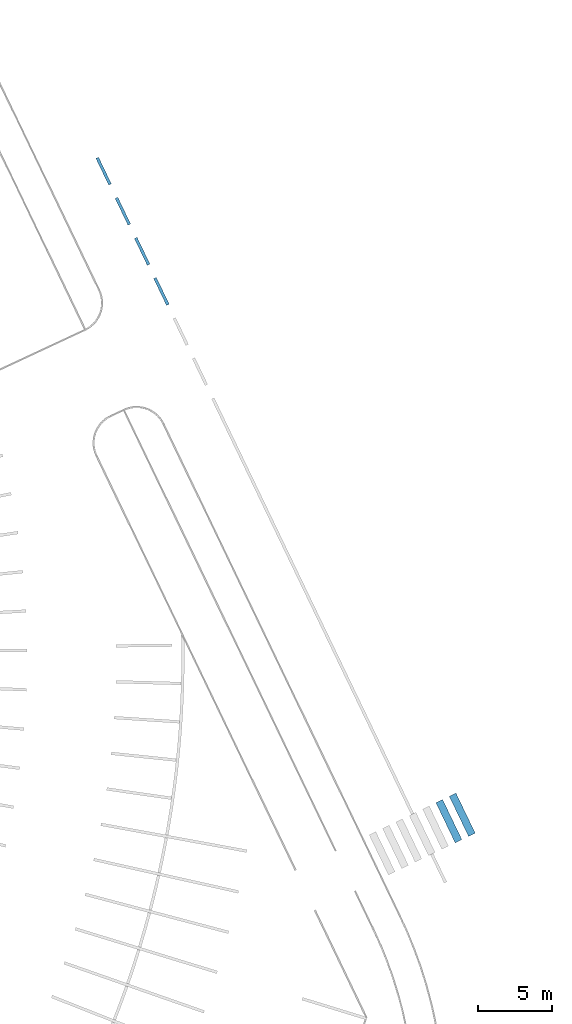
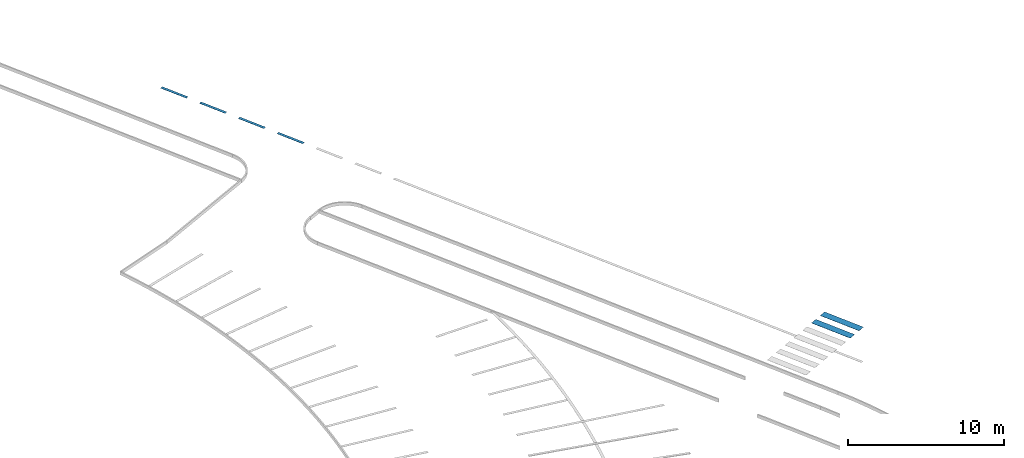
# One storey, part 92 of 157: 6 walls.
"""IFC2X3 building model written with IfcOpenShell, lengths in millimetres."""

import ifcopenshell
import ifcopenshell.guid

model = None  # the IFC model being written
_history = None  # IfcOwnerHistory: only IFC2X3 demands one
_inside = {}  # id of a spatial element -> (the spatial element, [elements in it])
_under = {}  # id of a project, library or spatial element -> (it, [spatial elements below it])
_declared = {}  # id of a project -> (the project, [libraries it declares])
_typed = {}  # id of a type object -> (the type object, [elements of that type])
_made_of = {}  # id of a material, layer set ... -> (it, [elements and type objects made of it])


def new_model(schema):
    """Start an empty IFC model of exactly this schema.

    Asked for "IFC4X3", IfcOpenShell would pick the latest addendum, in which some entities
    have other attributes; the version numbers below select the first issue.
    IFC2X3 requires an IfcOwnerHistory on every rooted entity: one is made here for all.
    """
    global model, _history
    if schema == "IFC4X3":
        model = ifcopenshell.file(schema_version=(4, 3, 0, 0))
    else:
        model = ifcopenshell.file(schema=schema)
    _inside.clear()
    _under.clear()
    _declared.clear()
    _typed.clear()
    _made_of.clear()
    _history = None
    if model.schema == "IFC2X3":
        org = make("IfcOrganization", Name="unknown")
        user = make(
            "IfcPersonAndOrganization",
            ThePerson=make("IfcPerson", FamilyName="unknown"),
            TheOrganization=org,
        )
        app = make(
            "IfcApplication",
            ApplicationDeveloper=org,
            Version="unknown",
            ApplicationFullName="unknown",
            ApplicationIdentifier="unknown",
        )
        _history = make(
            "IfcOwnerHistory",
            OwningUser=user,
            OwningApplication=app,
            ChangeAction="ADDED",
            CreationDate=0,
        )
    return model


def make(cls, **values):
    """One entity of the class cls with the attributes given. An attribute that is None is left unset."""
    return model.create_entity(
        cls, **{name: value for name, value in values.items() if value is not None}
    )


def entity(cls, *values):
    """Any entity or typed value of the class cls, its attributes in the order of the schema. None: left unset."""
    e = model.create_entity(cls)
    for i, value in enumerate(values):
        if value is not None:
            e[i] = value
    return e


def rooted(cls, **values):
    """An entity with a GlobalId (a new one), such as an element, a storey or a relation."""
    return make(cls, GlobalId=ifcopenshell.guid.new(), OwnerHistory=_history, **values)


def si_unit(unit_type, name, prefix=None):
    """IfcSIUnit, for example si_unit("LENGTHUNIT", "METRE", prefix="MILLI")."""
    return make("IfcSIUnit", UnitType=unit_type, Prefix=prefix, Name=name)


def converted_unit(unit_type, name, factor, base, dimensions=None, offset=None):
    """IfcConversionBasedUnit, such as the inch: factor (a typed value) times the base unit."""
    return make(
        "IfcConversionBasedUnit"
        if offset is None
        else "IfcConversionBasedUnitWithOffset",
        ConversionOffset=offset,
        Dimensions=None
        if dimensions is None
        else entity("IfcDimensionalExponents", *dimensions),
        UnitType=unit_type,
        Name=name,
        ConversionFactor=make(
            "IfcMeasureWithUnit", ValueComponent=factor, UnitComponent=base
        ),
    )


def derived_unit(unit_type, elements):
    """IfcDerivedUnit: a product of units, each with its exponent."""
    return make(
        "IfcDerivedUnit",
        Elements=[
            make("IfcDerivedUnitElement", Unit=unit, Exponent=power)
            for unit, power in elements
        ],
        UnitType=unit_type,
    )


def assignment(units):
    """IfcUnitAssignment: the units of a project."""
    return None if units is None else make("IfcUnitAssignment", Units=units)


def point(xyz):
    """IfcCartesianPoint."""
    return None if xyz is None else make("IfcCartesianPoint", Coordinates=xyz)


def direction(xyz):
    """IfcDirection."""
    return None if xyz is None else make("IfcDirection", DirectionRatios=xyz)


def frame(location, z_axis=None, x_axis=None):
    """IfcAxis2Placement3D, a coordinate frame: its origin and axes. An axis left out is left unset."""
    return make(
        "IfcAxis2Placement3D",
        Location=point(location),
        Axis=direction(z_axis),
        RefDirection=direction(x_axis),
    )


def frame_2d(location, x_axis=None):
    """IfcAxis2Placement2D, a coordinate frame in the plane: its origin and x axis."""
    return make(
        "IfcAxis2Placement2D", Location=point(location), RefDirection=direction(x_axis)
    )


def origin():
    """The frame at (0, 0, 0) with its axes left unset."""
    return frame((0.0, 0.0, 0.0))


def place(relative_to, where):
    """IfcLocalPlacement: puts the frame where relative to a parent placement (None: the world)."""
    return make(
        "IfcLocalPlacement", PlacementRelTo=relative_to, RelativePlacement=where
    )


def context(
    kind, dimensions, precision=None, world=None, true_north=None, identifier=None
):
    """IfcGeometricRepresentationContext, for example the 3D "Model" context."""
    return make(
        "IfcGeometricRepresentationContext",
        ContextIdentifier=identifier,
        ContextType=kind,
        CoordinateSpaceDimension=dimensions,
        Precision=precision,
        WorldCoordinateSystem=world,
        TrueNorth=true_north,
    )


def subcontext(parent, identifier, kind, view, scale=None):
    """IfcGeometricRepresentationSubContext, for example "Body" below "Model"."""
    return make(
        "IfcGeometricRepresentationSubContext",
        ContextIdentifier=identifier,
        ContextType=kind,
        ParentContext=parent,
        TargetScale=scale,
        TargetView=view,
    )


def project(units=None, contexts=None):
    """IfcProject with its units and contexts."""
    return rooted(
        "IfcProject",
        Name="project",
        RepresentationContexts=contexts,
        UnitsInContext=assignment(units),
    )


def spatial(cls, under=None, at=None, **own):
    """A site, building, storey or space (cls), placed at a placement, below another one or the project."""
    s = rooted(cls, ObjectPlacement=at, **own)
    if under is not None:
        _under.setdefault(under.id(), (under, []))[1].append(s)
    return s


def profile(cls, at=None, kind="AREA", **sizes):
    """A parametric profile (cls). Its sizes go by their IFC names, for example OverallWidth=200.0."""
    return make(cls, ProfileType=kind, Position=at, **sizes)


def rectangle(**sizes):
    """IfcRectangleProfileDef."""
    return profile("IfcRectangleProfileDef", **sizes)


def extrude(swept, where, along, depth):
    """IfcExtrudedAreaSolid: the profile swept, set in the frame where, extruded along a direction by depth."""
    return make(
        "IfcExtrudedAreaSolid",
        SweptArea=swept,
        Position=where,
        ExtrudedDirection=direction(along),
        Depth=depth,
    )


def shape(context_of_items, identifier, shape_type, items):
    """IfcShapeRepresentation: the items that make up one representation, for example the "Body"."""
    return make(
        "IfcShapeRepresentation",
        ContextOfItems=context_of_items,
        RepresentationIdentifier=identifier,
        RepresentationType=shape_type,
        Items=items,
    )


def material(Name=None, Category=None):
    """IfcMaterial."""
    return make("IfcMaterial", Name=Name, Category=Category)


def made_of(thing, what):
    """Note that an element or type object is made of a material, layer set ...; save() writes the relation."""
    if what is not None:
        _made_of.setdefault(what.id(), (what, []))[1].append(thing)
    return thing


def type_object(cls, material=None, **own):
    """A type object (cls), such as IfcWallType, which elements share."""
    return made_of(rooted(cls, **own), material)


def element(
    cls,
    number,
    at=None,
    inside=None,
    cuts=None,
    type_object=None,
    material=None,
    context=None,
    identifier="Body",
    shape_type=None,
    held_by="IfcProductDefinitionShape",
    body=None,
    shapes=None,
    **own,
):
    """One element of the class cls, such as IfcWall. Its Tag is "e" and its number.

    at: its placement. inside: the storey or other place that contains it. cuts: it is an
    opening in that element (IfcRelVoidsElement). A single representation is given by context,
    identifier, shape_type and body (its items); several are given by shapes. held_by: the class
    of the entity that holds the representations. save() writes the other relations.
    """
    e = rooted(cls, Tag="e%d" % number, ObjectPlacement=at, **own)
    if body is not None:
        shapes = [shape(context, identifier, shape_type, body)]
    if shapes is not None:
        e.Representation = make(held_by, Representations=shapes)
    if inside is not None:
        _inside.setdefault(inside.id(), (inside, []))[1].append(e)
    if cuts is not None:
        rooted(
            "IfcRelVoidsElement", RelatingBuildingElement=cuts, RelatedOpeningElement=e
        )
    if type_object is not None:
        _typed.setdefault(type_object.id(), (type_object, []))[1].append(e)
    return made_of(e, material)


def aggregate(whole, parts):
    """IfcRelAggregates: a whole, such as a stair, and the parts it consists of."""
    return rooted("IfcRelAggregates", RelatingObject=whole, RelatedObjects=parts)


def save(model, path):
    """Write the relations noted so far, then the file.

    IfcRelAggregates (storeys below a building ...), IfcRelContainedInSpatialStructure (elements
    in a storey), IfcRelDefinesByType, IfcRelAssociatesMaterial and IfcRelDeclares: one each for
    every whole, place, type object, material and project.
    """
    for whole, parts in _under.values():
        aggregate(whole, parts)
    for where, things in _inside.values():
        rooted(
            "IfcRelContainedInSpatialStructure",
            RelatedElements=things,
            RelatingStructure=where,
        )
    for kind, things in _typed.values():
        rooted("IfcRelDefinesByType", RelatedObjects=things, RelatingType=kind)
    for what, things in _made_of.values():
        rooted("IfcRelAssociatesMaterial", RelatedObjects=things, RelatingMaterial=what)
    for by, libraries in _declared.values():
        rooted("IfcRelDeclares", RelatingContext=by, RelatedDefinitions=libraries)
    model.write(path)


model = new_model("IFC2X3")

# Units and contexts
model_context = context("Model", 3, precision=0.01, world=origin(), true_north=direction((6.123031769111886e-17, 1.0)))
body_context = subcontext(model_context, "Body", "Model", "MODEL_VIEW")
ifc_project = project(units=[si_unit("LENGTHUNIT", "METRE", prefix="MILLI"), si_unit("AREAUNIT", "SQUARE_METRE"), si_unit("VOLUMEUNIT", "CUBIC_METRE"), converted_unit("PLANEANGLEUNIT", "DEGREE", entity("IfcRatioMeasure", 0.017453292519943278), si_unit("PLANEANGLEUNIT", "RADIAN"), dimensions=[0, 0, 0, 0, 0, 0, 0]), si_unit("MASSUNIT", "GRAM", prefix="KILO"), derived_unit("MASSDENSITYUNIT", [(si_unit("MASSUNIT", "GRAM", prefix="KILO"), 1), (si_unit("LENGTHUNIT", "METRE"), -3)]), derived_unit("MOMENTOFINERTIAUNIT", [(si_unit("LENGTHUNIT", "METRE"), 4)]), si_unit("TIMEUNIT", "SECOND"), si_unit("FREQUENCYUNIT", "HERTZ"), si_unit("THERMODYNAMICTEMPERATUREUNIT", "DEGREE_CELSIUS"), derived_unit("THERMALTRANSMITTANCEUNIT", [(si_unit("MASSUNIT", "GRAM", prefix="KILO"), 1), (si_unit("THERMODYNAMICTEMPERATUREUNIT", "KELVIN"), -1), (si_unit("TIMEUNIT", "SECOND"), -3)]), derived_unit("THERMALCONDUCTANCEUNIT", [(si_unit("MASSUNIT", "GRAM", prefix="KILO"), 1), (si_unit("LENGTHUNIT", "METRE"), 1), (si_unit("THERMODYNAMICTEMPERATUREUNIT", "KELVIN"), -1), (si_unit("TIMEUNIT", "SECOND"), -3)]), derived_unit("VOLUMETRICFLOWRATEUNIT", [(si_unit("LENGTHUNIT", "METRE"), 3), (si_unit("TIMEUNIT", "SECOND"), -1)]), derived_unit("MASSFLOWRATEUNIT", [(si_unit("MASSUNIT", "GRAM", prefix="KILO"), 1), (si_unit("TIMEUNIT", "SECOND"), -1)]), derived_unit("ROTATIONALFREQUENCYUNIT", [(si_unit("TIMEUNIT", "SECOND"), -1)]), si_unit("ELECTRICCURRENTUNIT", "AMPERE"), si_unit("ELECTRICVOLTAGEUNIT", "VOLT"), si_unit("POWERUNIT", "WATT"), converted_unit("FORCEUNIT", "KIP", entity("IfcRatioMeasure", 2.088543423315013e-05), si_unit("FORCEUNIT", "NEWTON"), dimensions=[1, 1, -2, 0, 0, 0, 0]), si_unit("ILLUMINANCEUNIT", "LUX"), si_unit("LUMINOUSFLUXUNIT", "LUMEN"), si_unit("LUMINOUSINTENSITYUNIT", "CANDELA"), derived_unit("USERDEFINED", [(si_unit("MASSUNIT", "GRAM", prefix="KILO"), -1), (si_unit("LENGTHUNIT", "METRE"), -2), (si_unit("TIMEUNIT", "SECOND"), 3), (si_unit("LUMINOUSFLUXUNIT", "LUMEN"), 1)]), derived_unit("USERDEFINED", [(si_unit("MASSUNIT", "GRAM", prefix="KILO"), 1), (si_unit("LENGTHUNIT", "METRE"), 3), (si_unit("TIMEUNIT", "SECOND"), -3), (si_unit("ELECTRICCURRENTUNIT", "AMPERE"), -2)]), derived_unit("USERDEFINED", [(si_unit("LENGTHUNIT", "METRE"), 2), (si_unit("TIMEUNIT", "SECOND"), -2)]), derived_unit("SOUNDPOWERUNIT", [(si_unit("MASSUNIT", "GRAM", prefix="KILO"), 1), (si_unit("LENGTHUNIT", "METRE"), 2), (si_unit("TIMEUNIT", "SECOND"), -3)]), derived_unit("SOUNDPRESSUREUNIT", [(si_unit("MASSUNIT", "GRAM", prefix="KILO"), 1), (si_unit("LENGTHUNIT", "METRE"), -1), (si_unit("TIMEUNIT", "SECOND"), -2)]), derived_unit("LINEARVELOCITYUNIT", [(si_unit("LENGTHUNIT", "METRE"), 1), (si_unit("TIMEUNIT", "SECOND"), -1)]), si_unit("PRESSUREUNIT", "PASCAL"), derived_unit("USERDEFINED", [(si_unit("LENGTHUNIT", "METRE"), -2), (si_unit("MASSUNIT", "GRAM", prefix="KILO"), 1), (si_unit("TIMEUNIT", "SECOND"), -2)]), derived_unit("LINEARFORCEUNIT", [(si_unit("MASSUNIT", "GRAM", prefix="KILO"), 1), (si_unit("LENGTHUNIT", "METRE"), 1), (si_unit("TIMEUNIT", "SECOND"), -2), (si_unit("LENGTHUNIT", "METRE"), -1)]), derived_unit("PLANARFORCEUNIT", [(si_unit("MASSUNIT", "GRAM", prefix="KILO"), 1), (si_unit("LENGTHUNIT", "METRE"), 1), (si_unit("TIMEUNIT", "SECOND"), -2), (si_unit("LENGTHUNIT", "METRE"), -2)]), derived_unit("SPECIFICHEATCAPACITYUNIT", [(si_unit("LENGTHUNIT", "METRE"), 2), (si_unit("TIMEUNIT", "SECOND"), -2), (si_unit("THERMODYNAMICTEMPERATUREUNIT", "KELVIN"), -1)]), derived_unit("VAPORPERMEABILITYUNIT", [(si_unit("TIMEUNIT", "SECOND"), 1), (si_unit("LENGTHUNIT", "METRE"), -1)]), derived_unit("DYNAMICVISCOSITYUNIT", [(si_unit("MASSUNIT", "GRAM", prefix="KILO"), 1), (si_unit("LENGTHUNIT", "METRE"), -1), (si_unit("TIMEUNIT", "SECOND"), -1)]), derived_unit("THERMALEXPANSIONCOEFFICIENTUNIT", [(si_unit("THERMODYNAMICTEMPERATUREUNIT", "KELVIN"), -1)])], contexts=[model_context])

# Site, building, storey
site_placement = place(None, frame((0.0, 0.0, 0.0), z_axis=(0.0, 0.0, 1.0), x_axis=(0.8191520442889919, 0.5735764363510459, 0.0)))
site = spatial("IfcSite", under=ifc_project, at=site_placement, Name="Default", CompositionType="ELEMENT")
building_placement = place(site_placement, origin())
building = spatial("IfcBuilding", under=site, at=building_placement, CompositionType="ELEMENT")
storey_placement = place(building_placement, origin())
storey = spatial("IfcBuildingStorey", under=building, at=storey_placement, Name="1.EG +0.00", CompositionType="ELEMENT", Elevation=-4.331468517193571e-12)

# Walls
ifc_material = material(Name="road_markirovka")
wall_type_1 = type_object("IfcWallType", Name="86", PredefinedType="NOTDEFINED", material=ifc_material)
wall_1_placement = place(storey_placement, frame((28713.187713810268, -77473.36445810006, 350.0), z_axis=(0.0, 0.0, 1.0), x_axis=(0.0, 1.0, 0.0)))
element("IfcWall", 1, at=wall_1_placement, inside=storey, type_object=wall_type_1, material=ifc_material, Name="86 206553:86 206553", ObjectType="86 206553:86 206553", context=body_context, shape_type="SweptSolid", body=[
    extrude(rectangle(XDim=199.9999999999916, YDim=2000.0000000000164, at=frame_2d((7.105427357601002e-13, -4.263256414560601e-12), x_axis=(1.0, 0.0))), frame((1002.9787330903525, -260.86311341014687, 0.0), z_axis=(0.0, 0.0, 1.0), x_axis=(0.16218711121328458, 0.9867600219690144, 0.0)), (0.0, 0.0, 1.0), 9.999999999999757),
])
wall_type_2 = type_object("IfcWallType", Name="84", PredefinedType="NOTDEFINED", material=ifc_material)
wall_2_placement = place(storey_placement, frame((27740.065046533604, -83393.92458991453, 350.0), z_axis=(0.0, 0.0, 1.0), x_axis=(0.0, 1.0, 0.0)))
element("IfcWall", 2, at=wall_2_placement, inside=storey, type_object=wall_type_2, material=ifc_material, Name="84 206562:84 206562", ObjectType="84 206562:84 206562", context=body_context, shape_type="SweptSolid", body=[
    extrude(rectangle(XDim=200.0000000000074, YDim=1999.9999999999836, at=frame_2d((-1.3997691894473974e-12, 8.526512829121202e-12), x_axis=(1.0, 0.0))), frame((1002.9787330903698, -260.86311340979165, 0.0), z_axis=(0.0, 0.0, 1.0), x_axis=(0.16218711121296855, 0.9867600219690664, 0.0)), (0.0, 0.0, 1.0), 9.999999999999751),
])
wall_type_3 = type_object("IfcWallType", Name="85", PredefinedType="NOTDEFINED", material=ifc_material)
wall_3_placement = place(storey_placement, frame((28226.62638017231, -80433.64452400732, 350.0), z_axis=(0.0, 0.0, 1.0), x_axis=(0.0, 1.0, 0.0)))
element("IfcWall", 3, at=wall_3_placement, inside=storey, type_object=wall_type_3, material=ifc_material, Name="85 206566:85 206566", ObjectType="85 206566:85 206566", context=body_context, shape_type="SweptSolid", body=[
    extrude(rectangle(XDim=200.00000000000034, YDim=1999.9999999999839, at=frame_2d((-1.4068746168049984e-12, 8.58335624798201e-12), x_axis=(1.0, 0.0))), frame((1002.9787330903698, -260.86311340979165, 0.0), z_axis=(0.0, 0.0, 1.0), x_axis=(0.16218711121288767, 0.9867600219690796, 0.0)), (0.0, 0.0, 1.0), 9.999999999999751),
])
wall_type_4 = type_object("IfcWallType", Name="83", PredefinedType="NOTDEFINED", material=ifc_material)
wall_4_placement = place(storey_placement, frame((27253.503712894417, -86354.20465582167, 350.0), z_axis=(0.0, 0.0, 1.0), x_axis=(0.0, 1.0, 0.0)))
element("IfcWall", 4, at=wall_4_placement, inside=storey, type_object=wall_type_4, material=ifc_material, Name="83 206577:83 206577", ObjectType="83 206577:83 206577", context=body_context, shape_type="SweptSolid", body=[
    extrude(rectangle(XDim=200.00000000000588, YDim=1999.9999999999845, at=frame_2d((1.4068746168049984e-12, -8.526512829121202e-12), x_axis=(1.0, 0.0))), frame((1002.9787330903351, -260.86311341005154, 0.0), z_axis=(0.0, 0.0, 1.0), x_axis=(0.16218711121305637, 0.9867600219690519, 0.0)), (0.0, 0.0, 1.0), 9.999999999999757),
])
wall_type_5 = type_object("IfcWallType", Name="81", PredefinedType="NOTDEFINED", material=ifc_material)
wall_5_placement = place(storey_placement, frame((23399.25604564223, -127424.72413602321, 350.0), z_axis=(0.0, 0.0, 1.0), x_axis=(0.0, 1.0, 0.0)))
element("IfcWall", 5, at=wall_5_placement, inside=storey, type_object=wall_type_5, material=ifc_material, Name="81 207325:81 207325", ObjectType="81 207325:81 207325", context=body_context, shape_type="SweptSolid", body=[
    extrude(rectangle(XDim=500.0000000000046, YDim=3000.0000000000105, at=frame_2d((-7.531752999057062e-13, -8.86757334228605e-12), x_axis=(1.0, 0.0))), frame((1520.6868107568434, -489.97067231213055, 0.0), z_axis=(0.0, 0.0, 1.0), x_axis=(0.16218711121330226, 0.9867600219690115, 0.0)), (0.0, 0.0, 1.0), 9.999999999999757),
])
wall_type_6 = type_object("IfcWallType", Name="81", PredefinedType="NOTDEFINED", material=ifc_material)
wall_6_placement = place(storey_placement, frame((22412.496023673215, -127262.53702481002, 350.0), z_axis=(0.0, 0.0, 1.0), x_axis=(0.0, 1.0, 0.0)))
element("IfcWall", 6, at=wall_6_placement, inside=storey, type_object=wall_type_6, material=ifc_material, Name="81 207370:81 207370", ObjectType="81 207370:81 207370", context=body_context, shape_type="SweptSolid", body=[
    extrude(rectangle(XDim=500.0000000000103, YDim=3000.000000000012, at=frame_2d((3.538502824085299e-12, -8.29913915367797e-12), x_axis=(1.0, 0.0))), frame((1520.6868107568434, -489.9706723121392, 0.0), z_axis=(0.0, 0.0, 1.0), x_axis=(0.16218711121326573, 0.9867600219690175, 0.0)), (0.0, 0.0, 1.0), 9.999999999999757),
])

save(model, "model.ifc")
